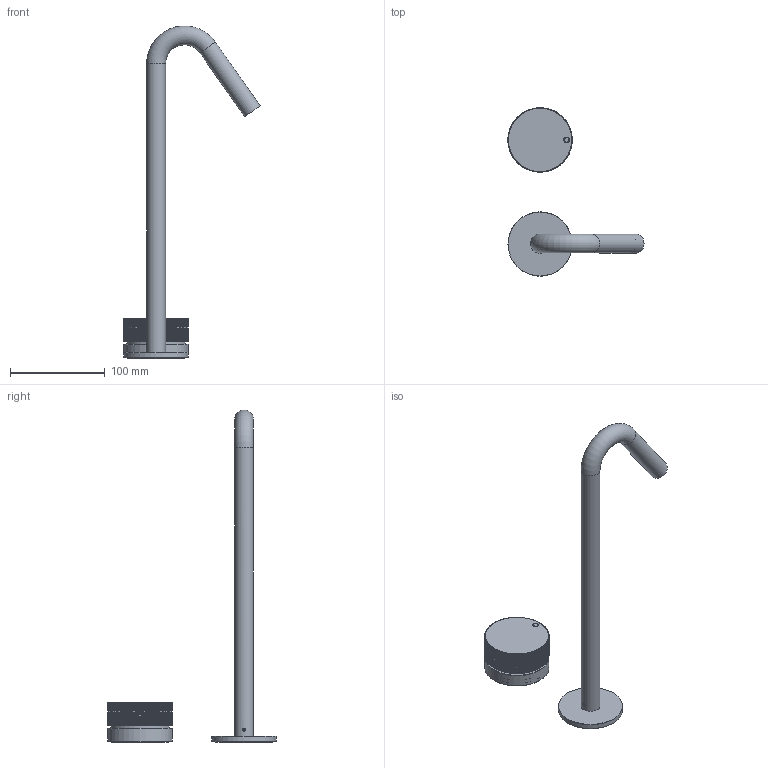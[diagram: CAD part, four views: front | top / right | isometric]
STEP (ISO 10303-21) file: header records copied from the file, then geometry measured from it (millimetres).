
FILE_DESCRIPTION(/* description */ ('Unknown'),/* implementation_level */ '2;1');
FILE_NAME(/* name */ 'RE004H',/* time_stamp */ '2023-07-14T07:59:18+02:00',/* author */ ('Unknown'),/* organization */ ('Unknown'),/* preprocessor_version */ 'ST-DEVELOPER v18.102',/* originating_system */ 'Solid Edge',/* authorisation */ 'Unknown');
FILE_SCHEMA (('AUTOMOTIVE_DESIGN {1 0 10303 214 3 1 1}'));
Length unit declared in the file: millimetre
Products named in the file (16): RE004H; RE004-002_oa_0; RE004-05; RE006-03; OR-63.22x1.78; G-61-56-2; RE004H-001_oa_1; RE004H-01; RE013-03; OR-12.42x1.78; GRP-4x3; 44.3256.450; 44.3256.450-1; 44.3256.450-2; 44.3256.450-3; 44.3256.450-4
Assembly tree (17 placements, depth 4):
  RE004H
    RE004-002_oa_0
      RE004-05
      RE006-03
      OR-63.22x1.78
      G-61-56-2
    RE004H-001_oa_1
      RE004H-01
      RE013-03
      OR-12.42x1.78  x2
      GRP-4x3
      44.3256.450
        44.3256.450-1
        44.3256.450-2
        44.3256.450-3
        44.3256.450-4
      G-61-56-2
Bounding box: 143.94 x 178 x 350.91 mm (x, y, z)
Volume: 110857.2 mm3; surface area: 100501.4 mm2
Topology: 14 solids, 14 shells, 1196 faces, 2691 edges, 1539 vertices
Faces by surface type: plane 514, cone 405, cylinder 234, torus 23, bspline 18, sphere 2
Full cylindrical faces by diameter (mm): 3.242 x2, 5 x2, 6 x1, 11.027 x2, 12 x1, 12.159 x1, 12.196 x1, 12.45 x1, 13.464 x1, 14.577 x1, 15 x2, 15.033 x1, 15.218 x1, 15.229 x1, 15.417 x2, 16 x1, 16.2 x1, 16.3 x1, 16.5 x2, 16.75 x1, 16.917 x1, 18 x1, 20 x2, 21 x1, 56 x2, 58 x1, 61 x2, 62 x1, 62.7 x1, 65 x1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
Entity records: 41099 total; most frequent: CARTESIAN_POINT 8115, DIRECTION 5097, ORIENTED_EDGE 5086, EDGE_CURVE 2543, AXIS2_PLACEMENT_3D 2144, VERTEX_POINT 1503, FACE_BOUND 1332, EDGE_LOOP 1326
